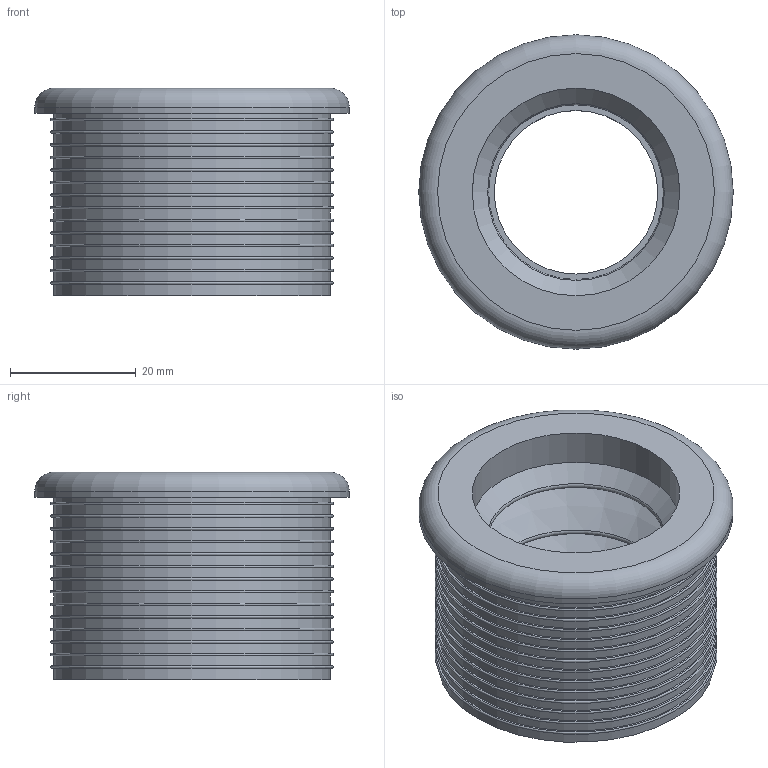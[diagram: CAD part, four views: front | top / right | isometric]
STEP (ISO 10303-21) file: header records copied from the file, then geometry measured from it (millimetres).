
FILE_DESCRIPTION(/* description */ (''),/* implementation_level */ '2;1');
FILE_NAME(/* name */ 'H:\Geberit-Teile\Export\Manschetten 152.6xx\stp\152682.stp',/* time_stamp */ '2016-07-27T14:29:40+02:00',/* author */ ('seihe2'),/* organization */ (''),/* preprocessor_version */ 'ST-DEVELOPER v15.2',/* originating_system */ 'Autodesk Inventor 2014',/* authorisation */ '');
FILE_SCHEMA (('AUTOMOTIVE_DESIGN { 1 0 10303 214 3 1 1 }'));
Length unit declared in the file: millimetre
Products named in the file (1): 152682
Bounding box: 50 x 50 x 33 mm (x, y, z)
Volume: 19083.4 mm3; surface area: 16496.5 mm2
Topology: 1 solids, 1 shells, 83 faces, 136 edges, 85 vertices
Faces by surface type: plane 32, torus 24, cylinder 21, cone 6
Full cylindrical faces by diameter (mm): 26 x1, 33 x1, 40 x3, 44 x15, 50 x1
Entity records: 1775 total; most frequent: DIRECTION 334, CARTESIAN_POINT 250, AXIS2_PLACEMENT_3D 167, EDGE_LOOP 166, ORIENTED_EDGE 166, FACE_BOUND 99, STYLED_ITEM 84, CIRCLE 83
